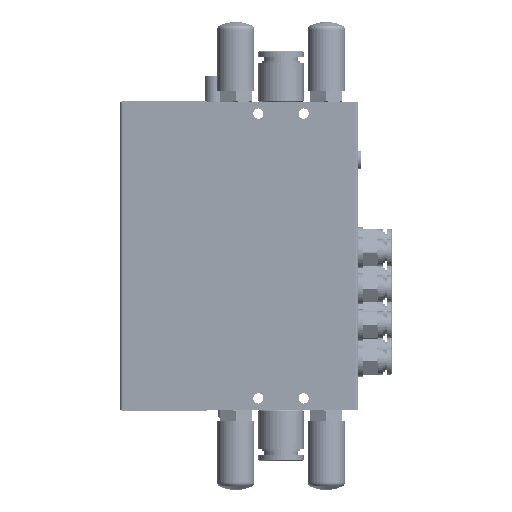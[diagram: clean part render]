
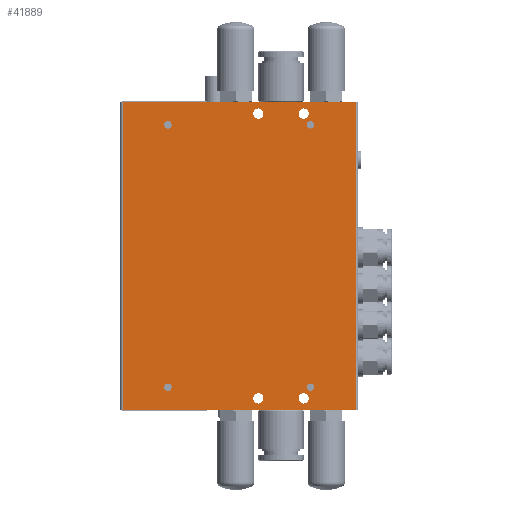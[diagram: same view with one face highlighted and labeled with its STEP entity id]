
A CAD part, front view. The second image highlights one B-rep face of the part: STEP entity #41889.
In plain terms, the highlighted planar face has unit normal (0, -1, 0).
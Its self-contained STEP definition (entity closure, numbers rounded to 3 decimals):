
#25731=LINE('',#154909,#31445);
#25738=LINE('',#155035,#31452);
#25739=LINE('',#155037,#31453);
#25740=LINE('',#155039,#31454);
#25741=LINE('',#155042,#31455);
#25742=LINE('',#155046,#31456);
#31445=VECTOR('',#117656,1.);
#31452=VECTOR('',#117693,1.);
#31453=VECTOR('',#117696,1.);
#31454=VECTOR('',#117697,1.);
#31455=VECTOR('',#117700,1.);
#31456=VECTOR('',#117703,1.);
#37777=PLANE('',#103654);
#39522=FACE_BOUND('',#51061,.T.);
#39523=FACE_BOUND('',#51062,.T.);
#39524=FACE_BOUND('',#51063,.T.);
#39525=FACE_BOUND('',#51064,.T.);
#39526=FACE_BOUND('',#51065,.T.);
#39527=FACE_BOUND('',#51066,.T.);
#39528=FACE_BOUND('',#51067,.T.);
#39529=FACE_BOUND('',#51068,.T.);
#39530=FACE_BOUND('',#51069,.T.);
#41889=ADVANCED_FACE('',(#39522,#39523,#39524,#39525,#39526,#39527,#39528,
#39529,#39530),#37777,.T.);
#51061=EDGE_LOOP('',(#66824,#66825,#66826,#66827));
#51062=EDGE_LOOP('',(#66828));
#51063=EDGE_LOOP('',(#66829));
#51064=EDGE_LOOP('',(#66830));
#51065=EDGE_LOOP('',(#66831));
#51066=EDGE_LOOP('',(#66832,#66833));
#51067=EDGE_LOOP('',(#66834,#66835));
#51068=EDGE_LOOP('',(#66836));
#51069=EDGE_LOOP('',(#66837));
#55814=CIRCLE('',#103625,1.65);
#55815=CIRCLE('',#103627,2.25);
#55817=CIRCLE('',#103630,2.25);
#55828=CIRCLE('',#103649,1.65);
#55829=CIRCLE('',#103650,1.65);
#55830=CIRCLE('',#103651,1.65);
#55831=CIRCLE('',#103652,2.25);
#55832=CIRCLE('',#103653,2.25);
#66824=ORIENTED_EDGE('',*,*,#92643,.T.);
#66825=ORIENTED_EDGE('',*,*,#92644,.T.);
#66826=ORIENTED_EDGE('',*,*,#92645,.T.);
#66827=ORIENTED_EDGE('',*,*,#92626,.F.);
#66828=ORIENTED_EDGE('',*,*,#92624,.F.);
#66829=ORIENTED_EDGE('',*,*,#92622,.F.);
#66830=ORIENTED_EDGE('',*,*,#92646,.T.);
#66831=ORIENTED_EDGE('',*,*,#92621,.T.);
#66832=ORIENTED_EDGE('',*,*,#92647,.F.);
#66833=ORIENTED_EDGE('',*,*,#92648,.F.);
#66834=ORIENTED_EDGE('',*,*,#92649,.F.);
#66835=ORIENTED_EDGE('',*,*,#92650,.F.);
#66836=ORIENTED_EDGE('',*,*,#92651,.F.);
#66837=ORIENTED_EDGE('',*,*,#92652,.F.);
#83978=VERTEX_POINT('',#154897);
#83979=VERTEX_POINT('',#154900);
#83981=VERTEX_POINT('',#154905);
#83983=VERTEX_POINT('',#154910);
#83984=VERTEX_POINT('',#154911);
#83998=VERTEX_POINT('',#155034);
#83999=VERTEX_POINT('',#155038);
#84000=VERTEX_POINT('',#155041);
#84001=VERTEX_POINT('',#155043);
#84002=VERTEX_POINT('',#155044);
#84003=VERTEX_POINT('',#155047);
#84004=VERTEX_POINT('',#155048);
#84005=VERTEX_POINT('',#155051);
#84006=VERTEX_POINT('',#155053);
#92621=EDGE_CURVE('',#83978,#83978,#55814,.T.);
#92622=EDGE_CURVE('',#83979,#83979,#55815,.T.);
#92624=EDGE_CURVE('',#83981,#83981,#55817,.T.);
#92626=EDGE_CURVE('',#83983,#83984,#25731,.T.);
#92643=EDGE_CURVE('',#83983,#83998,#25738,.T.);
#92644=EDGE_CURVE('',#83998,#83999,#25739,.T.);
#92645=EDGE_CURVE('',#83999,#83984,#25740,.T.);
#92646=EDGE_CURVE('',#84000,#84000,#55828,.T.);
#92647=EDGE_CURVE('',#84001,#84002,#25741,.T.);
#92648=EDGE_CURVE('',#84002,#84001,#55829,.T.);
#92649=EDGE_CURVE('',#84003,#84004,#25742,.T.);
#92650=EDGE_CURVE('',#84004,#84003,#55830,.T.);
#92651=EDGE_CURVE('',#84005,#84005,#55831,.T.);
#92652=EDGE_CURVE('',#84006,#84006,#55832,.T.);
#103625=AXIS2_PLACEMENT_3D('',#154896,#117640,#117641);
#103627=AXIS2_PLACEMENT_3D('',#154899,#117644,#117645);
#103630=AXIS2_PLACEMENT_3D('',#154904,#117650,#117651);
#103649=AXIS2_PLACEMENT_3D('',#155040,#117698,#117699);
#103650=AXIS2_PLACEMENT_3D('',#155045,#117701,#117702);
#103651=AXIS2_PLACEMENT_3D('',#155049,#117704,#117705);
#103652=AXIS2_PLACEMENT_3D('',#155050,#117706,#117707);
#103653=AXIS2_PLACEMENT_3D('',#155052,#117708,#117709);
#103654=AXIS2_PLACEMENT_3D('',#155054,#117710,#117711);
#117640=DIRECTION('',(0.,1.,0.));
#117641=DIRECTION('',(0.,0.,-1.));
#117644=DIRECTION('',(0.,-1.,0.));
#117645=DIRECTION('',(0.,0.,-1.));
#117650=DIRECTION('',(0.,-1.,0.));
#117651=DIRECTION('',(0.,0.,-1.));
#117656=DIRECTION('',(1.,0.,0.));
#117693=DIRECTION('',(0.,0.,-1.));
#117696=DIRECTION('',(1.,0.,0.));
#117697=DIRECTION('',(0.,0.,1.));
#117698=DIRECTION('',(0.,1.,0.));
#117699=DIRECTION('',(0.,0.,-1.));
#117700=DIRECTION('',(-1.,0.,0.));
#117701=DIRECTION('',(0.,-1.,0.));
#117702=DIRECTION('',(0.,0.,1.));
#117703=DIRECTION('',(-1.,0.,0.));
#117704=DIRECTION('',(0.,-1.,0.));
#117705=DIRECTION('',(0.,0.,1.));
#117706=DIRECTION('',(0.,-1.,0.));
#117707=DIRECTION('',(0.,0.,-1.));
#117708=DIRECTION('',(0.,-1.,0.));
#117709=DIRECTION('',(0.,0.,-1.));
#117710=DIRECTION('',(0.,-1.,0.));
#117711=DIRECTION('',(0.,0.,-1.));
#154896=CARTESIAN_POINT('',(31.5,-33.8,62.));
#154897=CARTESIAN_POINT('',(31.5,-33.8,60.35));
#154899=CARTESIAN_POINT('',(28.5,-33.8,67.));
#154900=CARTESIAN_POINT('',(28.5,-33.8,64.75));
#154904=CARTESIAN_POINT('',(8.5,-33.8,67.));
#154905=CARTESIAN_POINT('',(8.5,-33.8,64.75));
#154909=CARTESIAN_POINT('',(-52.5,-33.8,72.));
#154910=CARTESIAN_POINT('',(-51.5,-33.8,72.));
#154911=CARTESIAN_POINT('',(51.5,-33.8,72.));
#155034=CARTESIAN_POINT('',(-51.5,-33.8,-64.));
#155035=CARTESIAN_POINT('',(-51.5,-33.8,-56.));
#155037=CARTESIAN_POINT('',(-52.5,-33.8,-64.));
#155038=CARTESIAN_POINT('',(51.5,-33.8,-64.));
#155039=CARTESIAN_POINT('',(51.5,-33.8,-56.));
#155040=CARTESIAN_POINT('',(-31.5,-33.8,62.));
#155041=CARTESIAN_POINT('',(-31.5,-33.8,60.35));
#155042=CARTESIAN_POINT('',(-52.5,-33.8,-52.55));
#155043=CARTESIAN_POINT('',(32.287,-33.8,-52.55));
#155044=CARTESIAN_POINT('',(30.713,-33.8,-52.55));
#155045=CARTESIAN_POINT('',(31.5,-33.8,-54.));
#155046=CARTESIAN_POINT('',(-52.5,-33.8,-52.55));
#155047=CARTESIAN_POINT('',(-30.713,-33.8,-52.55));
#155048=CARTESIAN_POINT('',(-32.287,-33.8,-52.55));
#155049=CARTESIAN_POINT('',(-31.5,-33.8,-54.));
#155050=CARTESIAN_POINT('',(8.5,-33.8,-59.));
#155051=CARTESIAN_POINT('',(8.5,-33.8,-61.25));
#155052=CARTESIAN_POINT('',(28.5,-33.8,-59.));
#155053=CARTESIAN_POINT('',(28.5,-33.8,-61.25));
#155054=CARTESIAN_POINT('',(-52.5,-33.8,-56.));
